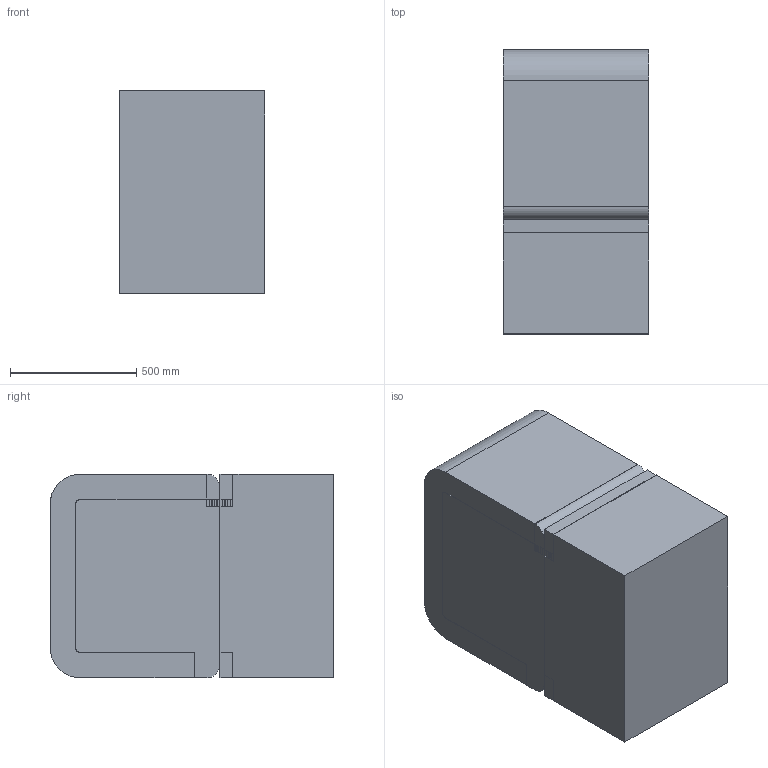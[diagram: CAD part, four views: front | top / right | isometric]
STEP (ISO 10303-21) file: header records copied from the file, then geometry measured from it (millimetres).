
FILE_DESCRIPTION(/* description */ (''),/* implementation_level */ '2;1');
FILE_NAME(/* name */ 'PreliminaryChamberHTTest.step',/* time_stamp */ '2024-09-30T15:16:06-07:00',/* author */ (''),/* organization */ (''),/* preprocessor_version */ 'ST-DEVELOPER v20',/* originating_system */ 'Autodesk Translation Framework v13.20.0.188',/* authorisation */ '');
FILE_SCHEMA (('AUTOMOTIVE_DESIGN { 1 0 10303 214 3 1 1 }'));
Products named in the file (1): Incubator
Bounding box: 576 x 1124.5 x 807 mm (x, y, z)
Volume: 516460084.3 mm3; surface area: 7870356.6 mm2
Topology: 5 solids, 5 shells, 2841 faces, 7363 edges, 4991 vertices
Faces by surface type: plane 2833, cylinder 8
Entity records: 85239 total; most frequent: CARTESIAN_POINT 15196, ORIENTED_EDGE 14726, DIRECTION 13064, EDGE_CURVE 7363, LINE 7346, VECTOR 7346, VERTEX_POINT 4991, EDGE_LOOP 3300
